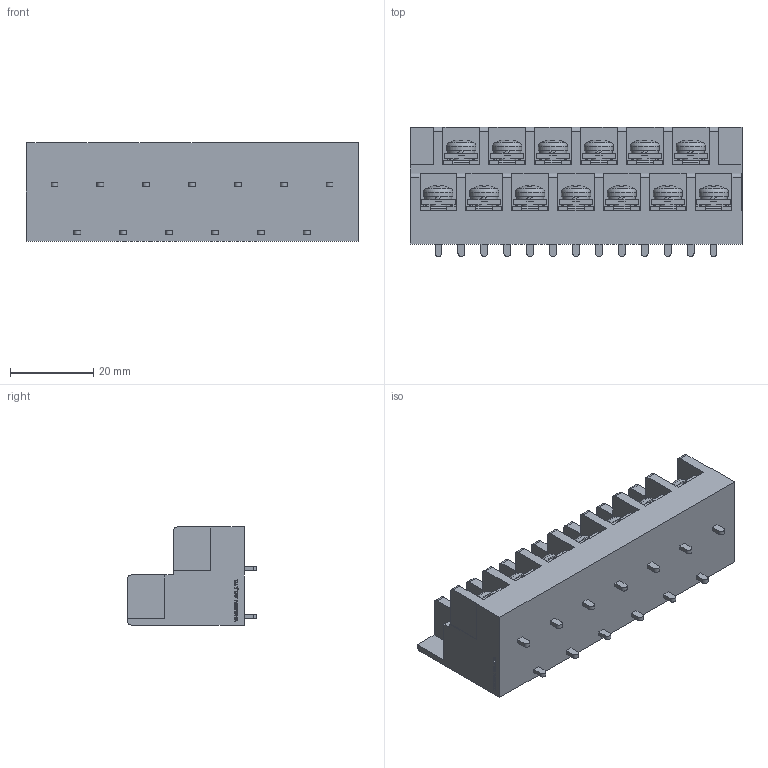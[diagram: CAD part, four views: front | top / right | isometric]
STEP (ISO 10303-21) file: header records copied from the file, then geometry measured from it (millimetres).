
FILE_DESCRIPTION(/* description */ ('Alibre Inc.'),/* implementation_level */ '2;1');
FILE_NAME(/* name */ 'export0',/* time_stamp */ '2016-08-06T14:00:21+09:00',/* author */ (''),/* organization */ (''),/* preprocessor_version */ 'ST-DEVELOPER v14',/* originating_system */ 'Alibre',/* authorisation */ '');
FILE_SCHEMA (('CONFIG_CONTROL_DESIGN'));
Length unit declared in the file: centimetre
Products named in the file (1): ID_1
Bounding box: 79.6 x 31 x 23.5 mm (x, y, z)
Volume: 33561.8 mm3; surface area: 15738.8 mm2
Topology: 1 solids, 113 shells, 2722 faces, 7121 edges, 4691 vertices
Faces by surface type: plane 2108, bspline 416, cylinder 107, cone 52, torus 26, sphere 13
Full cylindrical faces by diameter (mm): 4 x13, 7 x13
Entity records: 79554 total; most frequent: CARTESIAN_POINT 18281, ORIENTED_EDGE 14216, DIRECTION 8907, EDGE_CURVE 7056, VECTOR 5341, LINE 5341, VERTEX_POINT 4678, EDGE_LOOP 2948
